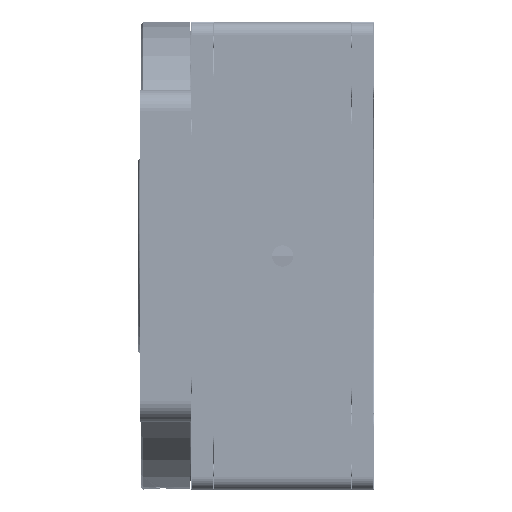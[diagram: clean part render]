
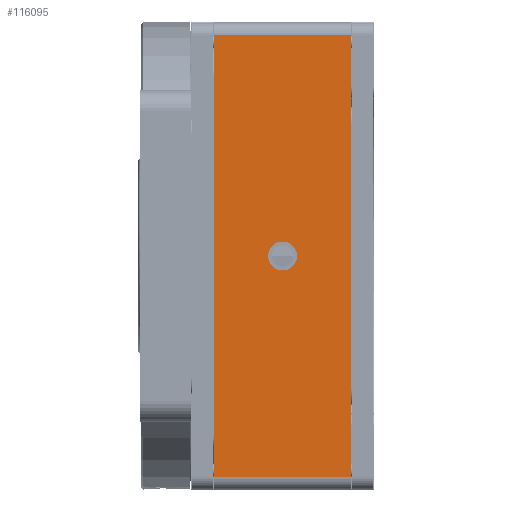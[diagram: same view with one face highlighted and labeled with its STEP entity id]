
A CAD part, left-side view. The second image highlights one B-rep face of the part: STEP entity #116095.
In plain terms, the highlighted planar face has unit normal (-1, 0, 0).
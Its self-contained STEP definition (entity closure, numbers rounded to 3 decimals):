
#1915 = DIRECTION ( 'NONE',  ( -1., 0., 0. ) ) ;
#4983 = EDGE_LOOP ( 'NONE', ( #87012, #11942, #117363, #11794 ) ) ;
#8651 = DIRECTION ( 'NONE',  ( 0., 0., -1. ) ) ;
#9105 = DIRECTION ( 'NONE',  ( 0., -1., 0. ) ) ;
#9268 = CARTESIAN_POINT ( 'NONE',  ( -143., 43., -55. ) ) ;
#10571 = VECTOR ( 'NONE', #9105, 1000. ) ;
#11794 = ORIENTED_EDGE ( 'NONE', *, *, #20364, .T. ) ;
#11942 = ORIENTED_EDGE ( 'NONE', *, *, #99287, .T. ) ;
#14044 = EDGE_LOOP ( 'NONE', ( #114974, #19888 ) ) ;
#14260 = VERTEX_POINT ( 'NONE', #30366 ) ;
#17555 = DIRECTION ( 'NONE',  ( 0., 0., -1. ) ) ;
#19888 = ORIENTED_EDGE ( 'NONE', *, *, #102362, .F. ) ;
#20085 = LINE ( 'NONE', #116919, #125333 ) ;
#20364 = EDGE_CURVE ( 'NONE', #25222, #121337, #85969, .T. ) ;
#22574 = DIRECTION ( 'NONE',  ( 0., 0., 1. ) ) ;
#25222 = VERTEX_POINT ( 'NONE', #34231 ) ;
#30366 = CARTESIAN_POINT ( 'NONE',  ( -143., 21.5, -3.4 ) ) ;
#31028 = AXIS2_PLACEMENT_3D ( 'NONE', #9268, #125483, #8651 ) ;
#32635 = DIRECTION ( 'NONE',  ( -1., 0., 0. ) ) ;
#34231 = CARTESIAN_POINT ( 'NONE',  ( -143., 37.6, -52. ) ) ;
#38125 = CIRCLE ( 'NONE', #73136, 3.4 ) ;
#39727 = CARTESIAN_POINT ( 'NONE',  ( -143., 5.4, 52. ) ) ;
#58597 = CARTESIAN_POINT ( 'NONE',  ( -143., 5.4, -52. ) ) ;
#58709 = AXIS2_PLACEMENT_3D ( 'NONE', #120426, #32635, #81727 ) ;
#63921 = VECTOR ( 'NONE', #116692, 1000. ) ;
#64111 = VECTOR ( 'NONE', #108984, 1000. ) ;
#66867 = VERTEX_POINT ( 'NONE', #39727 ) ;
#69601 = CARTESIAN_POINT ( 'NONE',  ( -143., 43., 52. ) ) ;
#70028 = EDGE_CURVE ( 'NONE', #111631, #14260, #38125, .T. ) ;
#71412 = VERTEX_POINT ( 'NONE', #72297 ) ;
#72297 = CARTESIAN_POINT ( 'NONE',  ( -143., 37.6, 52. ) ) ;
#73136 = AXIS2_PLACEMENT_3D ( 'NONE', #100051, #1915, #22574 ) ;
#81727 = DIRECTION ( 'NONE',  ( 0., 0., 1. ) ) ;
#85969 = LINE ( 'NONE', #115648, #10571 ) ;
#87012 = ORIENTED_EDGE ( 'NONE', *, *, #95693, .F. ) ;
#87063 = CARTESIAN_POINT ( 'NONE',  ( -143., 37.6, -55. ) ) ;
#88061 = PLANE ( 'NONE',  #31028 ) ;
#88460 = CARTESIAN_POINT ( 'NONE',  ( -143., 21.5, 3.4 ) ) ;
#95693 = EDGE_CURVE ( 'NONE', #66867, #121337, #20085, .T. ) ;
#97366 = LINE ( 'NONE', #87063, #63921 ) ;
#97733 = FACE_OUTER_BOUND ( 'NONE', #4983, .T. ) ;
#99287 = EDGE_CURVE ( 'NONE', #66867, #71412, #119283, .T. ) ;
#100051 = CARTESIAN_POINT ( 'NONE',  ( -143., 21.5, 0. ) ) ;
#102362 = EDGE_CURVE ( 'NONE', #14260, #111631, #114332, .T. ) ;
#107421 = FACE_BOUND ( 'NONE', #14044, .T. ) ;
#108984 = DIRECTION ( 'NONE',  ( 0., 1., 0. ) ) ;
#111631 = VERTEX_POINT ( 'NONE', #88460 ) ;
#114332 = CIRCLE ( 'NONE', #58709, 3.4 ) ;
#114974 = ORIENTED_EDGE ( 'NONE', *, *, #70028, .F. ) ;
#115648 = CARTESIAN_POINT ( 'NONE',  ( -143., 43., -52. ) ) ;
#116095 = ADVANCED_FACE ( 'NONE', ( #107421, #97733 ), #88061, .F. ) ;
#116692 = DIRECTION ( 'NONE',  ( 0., 0., 1. ) ) ;
#116919 = CARTESIAN_POINT ( 'NONE',  ( -143., 5.4, -55. ) ) ;
#117363 = ORIENTED_EDGE ( 'NONE', *, *, #122549, .F. ) ;
#119283 = LINE ( 'NONE', #69601, #64111 ) ;
#120426 = CARTESIAN_POINT ( 'NONE',  ( -143., 21.5, 0. ) ) ;
#121337 = VERTEX_POINT ( 'NONE', #58597 ) ;
#122549 = EDGE_CURVE ( 'NONE', #25222, #71412, #97366, .T. ) ;
#125333 = VECTOR ( 'NONE', #17555, 1000. ) ;
#125483 = DIRECTION ( 'NONE',  ( 1., 0., 0. ) ) ;
